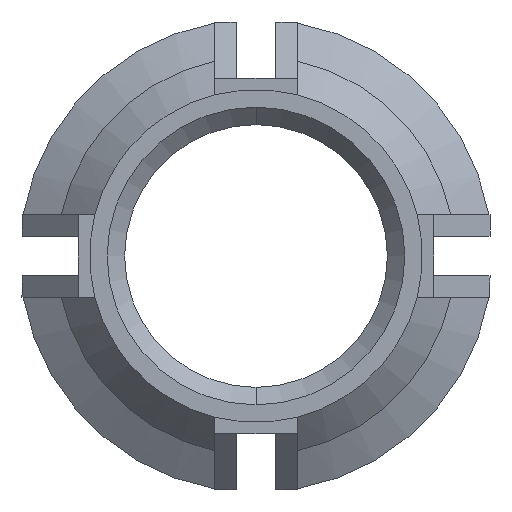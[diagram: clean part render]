
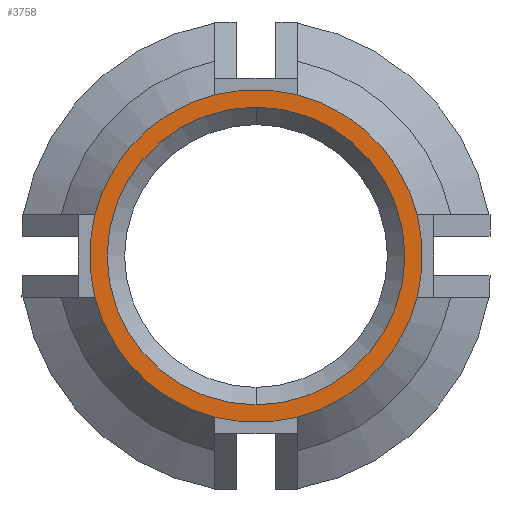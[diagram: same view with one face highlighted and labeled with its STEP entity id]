
A CAD part, front view. The second image highlights one B-rep face of the part: STEP entity #3758.
In plain terms, the highlighted planar face has unit normal (0, -1, 0).
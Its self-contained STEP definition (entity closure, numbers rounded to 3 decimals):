
#103 = CARTESIAN_POINT ( 'NONE',  ( -1.25, -10.922, -4.869 ) ) ;
#139 = VERTEX_POINT ( 'NONE', #1156 ) ;
#143 = CARTESIAN_POINT ( 'NONE',  ( 0., -10.922, 0. ) ) ;
#163 = EDGE_LOOP ( 'NONE', ( #1628, #462 ) ) ;
#170 = CIRCLE ( 'NONE', #1145, 5.027 ) ;
#238 = EDGE_CURVE ( 'NONE', #2054, #3839, #779, .T. ) ;
#267 = CARTESIAN_POINT ( 'NONE',  ( 0., -10.922, 4.498 ) ) ;
#324 = DIRECTION ( 'NONE',  ( 0., 0., 1. ) ) ;
#338 = CIRCLE ( 'NONE', #1829, 5.027 ) ;
#362 = CARTESIAN_POINT ( 'NONE',  ( 0., -10.922, 0. ) ) ;
#392 = FACE_BOUND ( 'NONE', #163, .T. ) ;
#394 = ORIENTED_EDGE ( 'NONE', *, *, #2987, .T. ) ;
#450 = AXIS2_PLACEMENT_3D ( 'NONE', #882, #1879, #3554 ) ;
#462 = ORIENTED_EDGE ( 'NONE', *, *, #2791, .T. ) ;
#467 = VERTEX_POINT ( 'NONE', #4285 ) ;
#483 = EDGE_CURVE ( 'NONE', #3687, #2112, #2473, .T. ) ;
#485 = DIRECTION ( 'NONE',  ( 0., 0., 1. ) ) ;
#493 = CARTESIAN_POINT ( 'NONE',  ( 1.25, -10.922, -4.869 ) ) ;
#516 = CIRCLE ( 'NONE', #1555, 5.027 ) ;
#545 = CARTESIAN_POINT ( 'NONE',  ( 0., -10.922, 0. ) ) ;
#604 = CIRCLE ( 'NONE', #2133, 5.027 ) ;
#723 = EDGE_CURVE ( 'NONE', #467, #2412, #516, .T. ) ;
#726 = VERTEX_POINT ( 'NONE', #3171 ) ;
#742 = DIRECTION ( 'NONE',  ( 0., 0., 1. ) ) ;
#779 = CIRCLE ( 'NONE', #4141, 5.027 ) ;
#798 = CARTESIAN_POINT ( 'NONE',  ( 0., -10.922, 0. ) ) ;
#809 = EDGE_CURVE ( 'NONE', #2112, #467, #924, .T. ) ;
#842 = AXIS2_PLACEMENT_3D ( 'NONE', #143, #1815, #3161 ) ;
#863 = CARTESIAN_POINT ( 'NONE',  ( 0., -10.922, 0. ) ) ;
#880 = DIRECTION ( 'NONE',  ( 0., -1., 0. ) ) ;
#882 = CARTESIAN_POINT ( 'NONE',  ( 0., -10.922, 0. ) ) ;
#891 = DIRECTION ( 'NONE',  ( 0., 0., 1. ) ) ;
#924 = CIRCLE ( 'NONE', #450, 5.027 ) ;
#1004 = DIRECTION ( 'NONE',  ( 0., 0., 1. ) ) ;
#1015 = ORIENTED_EDGE ( 'NONE', *, *, #1052, .T. ) ;
#1037 = DIRECTION ( 'NONE',  ( 0., 1., 0. ) ) ;
#1052 = EDGE_CURVE ( 'NONE', #3839, #1102, #4223, .T. ) ;
#1083 = ORIENTED_EDGE ( 'NONE', *, *, #238, .T. ) ;
#1102 = VERTEX_POINT ( 'NONE', #1871 ) ;
#1138 = DIRECTION ( 'NONE',  ( 0., 1., 0. ) ) ;
#1142 = DIRECTION ( 'NONE',  ( 0., -1., 0. ) ) ;
#1145 = AXIS2_PLACEMENT_3D ( 'NONE', #798, #1439, #742 ) ;
#1156 = CARTESIAN_POINT ( 'NONE',  ( 0., -10.922, -4.498 ) ) ;
#1227 = DIRECTION ( 'NONE',  ( 0., -1., 0. ) ) ;
#1345 = CARTESIAN_POINT ( 'NONE',  ( 0., -10.922, 0. ) ) ;
#1439 = DIRECTION ( 'NONE',  ( 0., -1., 0. ) ) ;
#1553 = CARTESIAN_POINT ( 'NONE',  ( 0., -10.922, 0. ) ) ;
#1555 = AXIS2_PLACEMENT_3D ( 'NONE', #545, #1227, #1867 ) ;
#1628 = ORIENTED_EDGE ( 'NONE', *, *, #2844, .T. ) ;
#1645 = DIRECTION ( 'NONE',  ( 0., -1., 0. ) ) ;
#1815 = DIRECTION ( 'NONE',  ( 0., 1., 0. ) ) ;
#1829 = AXIS2_PLACEMENT_3D ( 'NONE', #1553, #880, #891 ) ;
#1867 = DIRECTION ( 'NONE',  ( 0., 0., 1. ) ) ;
#1871 = CARTESIAN_POINT ( 'NONE',  ( 4.869, -10.922, -1.25 ) ) ;
#1879 = DIRECTION ( 'NONE',  ( 0., -1., 0. ) ) ;
#1941 = AXIS2_PLACEMENT_3D ( 'NONE', #863, #1138, #485 ) ;
#1970 = CARTESIAN_POINT ( 'NONE',  ( 4.869, -10.922, 1.25 ) ) ;
#2054 = VERTEX_POINT ( 'NONE', #103 ) ;
#2085 = ORIENTED_EDGE ( 'NONE', *, *, #3715, .T. ) ;
#2112 = VERTEX_POINT ( 'NONE', #4065 ) ;
#2129 = DIRECTION ( 'NONE',  ( 0., 0., 1. ) ) ;
#2133 = AXIS2_PLACEMENT_3D ( 'NONE', #1345, #3942, #3277 ) ;
#2137 = CIRCLE ( 'NONE', #842, 4.498 ) ;
#2162 = CARTESIAN_POINT ( 'NONE',  ( 0., -10.922, 0. ) ) ;
#2181 = AXIS2_PLACEMENT_3D ( 'NONE', #3444, #4106, #2129 ) ;
#2412 = VERTEX_POINT ( 'NONE', #2921 ) ;
#2473 = CIRCLE ( 'NONE', #3014, 5.027 ) ;
#2646 = ORIENTED_EDGE ( 'NONE', *, *, #723, .T. ) ;
#2694 = EDGE_CURVE ( 'NONE', #2412, #726, #170, .T. ) ;
#2710 = FACE_OUTER_BOUND ( 'NONE', #3550, .T. ) ;
#2791 = EDGE_CURVE ( 'NONE', #4070, #139, #2137, .T. ) ;
#2844 = EDGE_CURVE ( 'NONE', #139, #4070, #3019, .T. ) ;
#2921 = CARTESIAN_POINT ( 'NONE',  ( -4.869, -10.922, 1.25 ) ) ;
#2987 = EDGE_CURVE ( 'NONE', #726, #2054, #338, .T. ) ;
#3014 = AXIS2_PLACEMENT_3D ( 'NONE', #3290, #1645, #324 ) ;
#3019 = CIRCLE ( 'NONE', #1941, 4.498 ) ;
#3079 = ORIENTED_EDGE ( 'NONE', *, *, #809, .T. ) ;
#3129 = DIRECTION ( 'NONE',  ( -1., 0., 0. ) ) ;
#3161 = DIRECTION ( 'NONE',  ( 0., 0., 1. ) ) ;
#3171 = CARTESIAN_POINT ( 'NONE',  ( -4.869, -10.922, -1.25 ) ) ;
#3277 = DIRECTION ( 'NONE',  ( 0., 0., -1. ) ) ;
#3290 = CARTESIAN_POINT ( 'NONE',  ( 0., -10.922, 0. ) ) ;
#3444 = CARTESIAN_POINT ( 'NONE',  ( 0., -10.922, 0. ) ) ;
#3550 = EDGE_LOOP ( 'NONE', ( #4005, #394, #1083, #1015, #2085, #3628, #3079, #2646 ) ) ;
#3554 = DIRECTION ( 'NONE',  ( 1., 0., 0. ) ) ;
#3628 = ORIENTED_EDGE ( 'NONE', *, *, #483, .T. ) ;
#3642 = PLANE ( 'NONE',  #3905 ) ;
#3687 = VERTEX_POINT ( 'NONE', #1970 ) ;
#3715 = EDGE_CURVE ( 'NONE', #1102, #3687, #604, .T. ) ;
#3758 = ADVANCED_FACE ( 'NONE', ( #392, #2710 ), #3642, .F. ) ;
#3839 = VERTEX_POINT ( 'NONE', #493 ) ;
#3905 = AXIS2_PLACEMENT_3D ( 'NONE', #362, #1037, #1004 ) ;
#3942 = DIRECTION ( 'NONE',  ( 0., -1., 0. ) ) ;
#4005 = ORIENTED_EDGE ( 'NONE', *, *, #2694, .T. ) ;
#4065 = CARTESIAN_POINT ( 'NONE',  ( 1.25, -10.922, 4.869 ) ) ;
#4070 = VERTEX_POINT ( 'NONE', #267 ) ;
#4106 = DIRECTION ( 'NONE',  ( 0., -1., 0. ) ) ;
#4141 = AXIS2_PLACEMENT_3D ( 'NONE', #2162, #1142, #3129 ) ;
#4223 = CIRCLE ( 'NONE', #2181, 5.027 ) ;
#4285 = CARTESIAN_POINT ( 'NONE',  ( -1.25, -10.922, 4.869 ) ) ;
